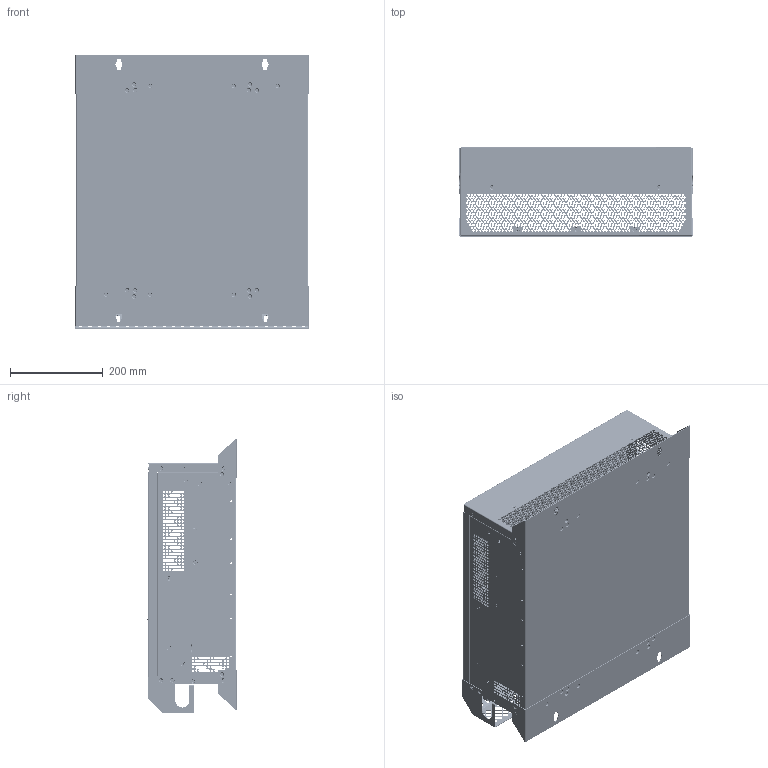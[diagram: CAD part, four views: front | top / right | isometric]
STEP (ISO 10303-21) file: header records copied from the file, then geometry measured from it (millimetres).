
FILE_DESCRIPTION (( 'STEP AP203' ), '1' );
FILE_NAME ('100A族境衄そ.STEP', '2024-01-31T01:22:45', ( '' ), ( '' ), 'SwSTEP 2.0', 'SolidWorks 2020', '' );
FILE_SCHEMA (( 'CONFIG_CONTROL_DESIGN' ));
Products named in the file (24): S-M4-2-ZC; 錨璃5^族境璃; 腑啣; 遺殤; 錨璃5^衄そ裔啣; BSO-3.5M3-8; 100A族境衄そ; 100A儂眊郪蚾_族境衄そ; 珘儒DMT48270C043-15WTZ1; GBT819.1_M4X8; 零件4^壁挂前面板_壁挂; 100A誘盄欶; 衄そ裔啣; 族境ヶ醱啣_族境; 綴醱啣; 5弇100A傷赽; BSO-3.5M4-12.5; 族境璃; 2弇100A傷赽; 錨璃2^綴醱啣; S-M6-2-ZC; ﾁ羮1^ｿﾜ; 錨璃2^100A誘盄欶
Assembly tree (83 placements, depth 4):
  100A族境衄そ
    100A儂眊郪蚾_族境衄そ
      遺殤
        ﾁ羮1^ｿﾜ
        S-M4-2-ZC  x12
      綴醱啣
        錨璃2^綴醱啣
        BSO-3.5M4-12.5  x4
        S-M6-2-ZC  x2
      族境ヶ醱啣_族境
        零件4^壁挂前面板_壁挂
      族境璃
        錨璃5^族境璃
      族境璃
        錨璃5^族境璃
      衄そ裔啣
        錨璃5^衄そ裔啣
        BSO-3.5M3-8  x6
      GBT819.1_M4X8  x40
    5弇100A傷赽
    珘儒DMT48270C043-15WTZ1
    腑啣
    2弇100A傷赽
    100A誘盄欶
      錨璃2^100A誘盄欶
Bounding box: 504 x 192.3 x 591.25 mm (x, y, z)
Volume: 1699220.7 mm3; surface area: 2135546.5 mm2
Topology: 77 solids, 77 shells, 16343 faces, 47896 edges, 31778 vertices
Faces by surface type: plane 14226, cylinder 1309, cone 536, bspline 268, torus 4
Entity records: 494659 total; most frequent: CARTESIAN_POINT 88088, ORIENTED_EDGE 86416, DIRECTION 74629, EDGE_CURVE 43208, VECTOR 40819, LINE 40819, VERTEX_POINT 28710, EDGE_LOOP 19688
